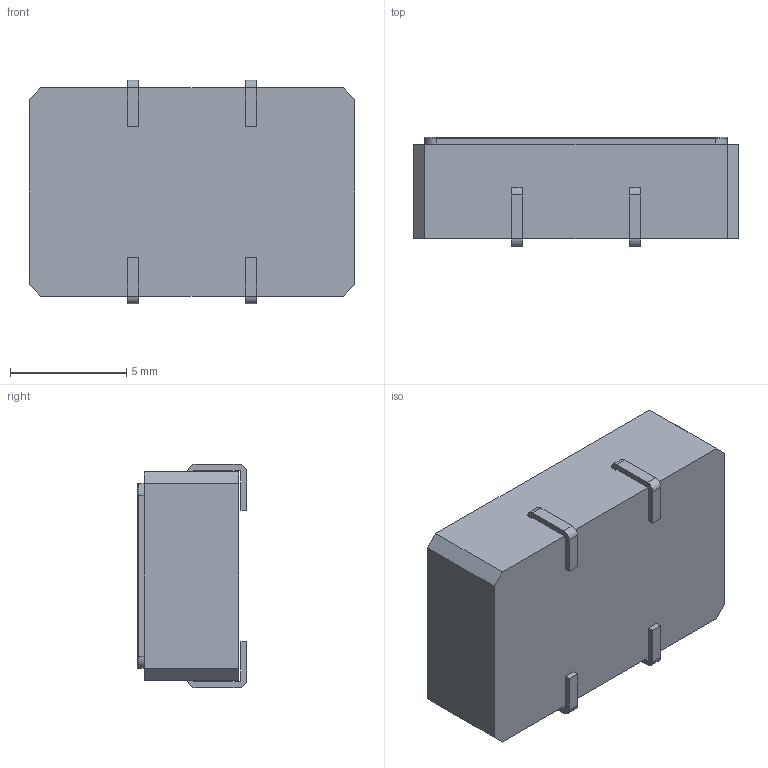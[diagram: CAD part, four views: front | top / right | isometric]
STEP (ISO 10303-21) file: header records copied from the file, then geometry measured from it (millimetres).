
FILE_DESCRIPTION (( 'STEP AP214' ), '1' );
FILE_NAME ( 'OSCL508P1400X895X470-4.STEP', '2014-04-11T12:31:19', ( '' ), ( '' ), 'FPX Expert 2013', 'PCB Libraries', '' );
FILE_SCHEMA (( 'AUTOMOTIVE_DESIGN' ));
Length unit declared in the file: millimetre
Products named in the file (1): OSCL508P1400X895X470-4
Bounding box: 14 x 4.7 x 9.6 mm (x, y, z)
Volume: 538.4 mm3; surface area: 468.3 mm2
Topology: 5 solids, 5 shells, 86 faces, 198 edges, 124 vertices
Faces by surface type: plane 56, cylinder 24, torus 6
Entity records: 2888 total; most frequent: DIRECTION 446, CARTESIAN_POINT 441, ORIENTED_EDGE 428, EDGE_CURVE 214, VECTOR 156, LINE 156, AXIS2_PLACEMENT_3D 145, VERTEX_POINT 140
